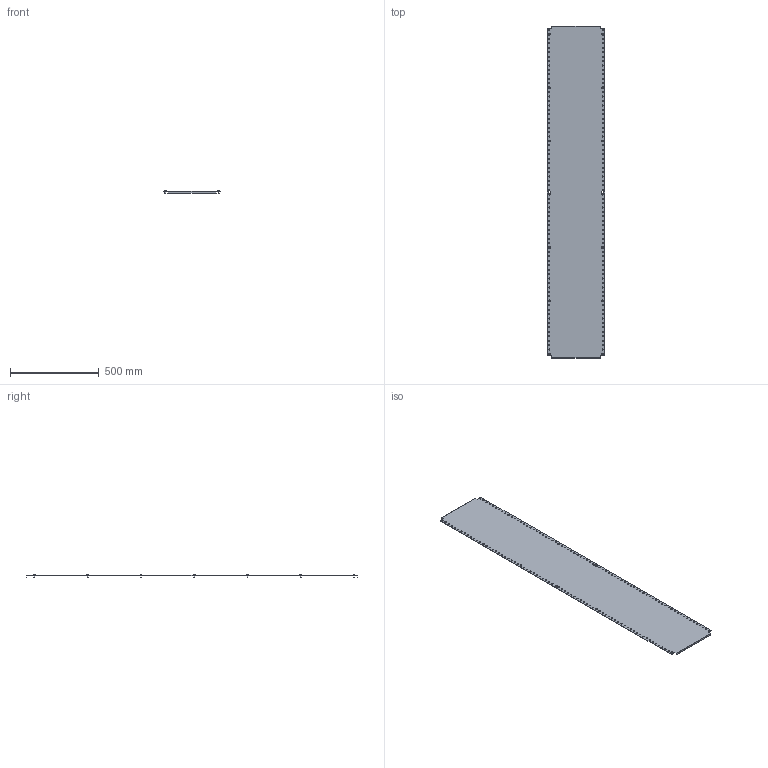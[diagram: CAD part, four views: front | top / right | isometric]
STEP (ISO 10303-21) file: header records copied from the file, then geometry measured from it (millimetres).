
FILE_DESCRIPTION (( 'STEP AP203' ), '1' );
FILE_NAME ('R6MP2040.STEP', '2025-03-28T12:11:58', ( '' ), ( '' ), 'SwSTEP 2.0', 'SolidWorks 2022', '' );
FILE_SCHEMA (( 'CONFIG_CONTROL_DESIGN' ));
Length unit declared in the file: millimetre
Products named in the file (3): RB.3293.00.00.0_-25; M5x12 DIN 7500 C Torx Zinc_stright; R6MP2040
Assembly tree (15 placements, depth 2):
  R6MP2040
    RB.3293.00.00.0_-25
    M5x12 DIN 7500 C Torx Zinc_stright  x14
Bounding box: 325 x 1870 x 15.56 mm (x, y, z)
Volume: 1095637.4 mm3; surface area: 1230280.7 mm2
Topology: 15 solids, 15 shells, 406 faces, 960 edges, 598 vertices
Faces by surface type: cylinder 180, plane 142, torus 28, cone 28, sphere 14, bspline 14
Full cylindrical faces by diameter (mm): 5 x14, 6.5 x148, 9.5 x14
Entity records: 7365 total; most frequent: CARTESIAN_POINT 1206, DIRECTION 1152, ORIENTED_EDGE 824, EDGE_LOOP 654, AXIS2_PLACEMENT_3D 532, EDGE_CURVE 412, VERTEX_POINT 374, FACE_OUTER_BOUND 352
